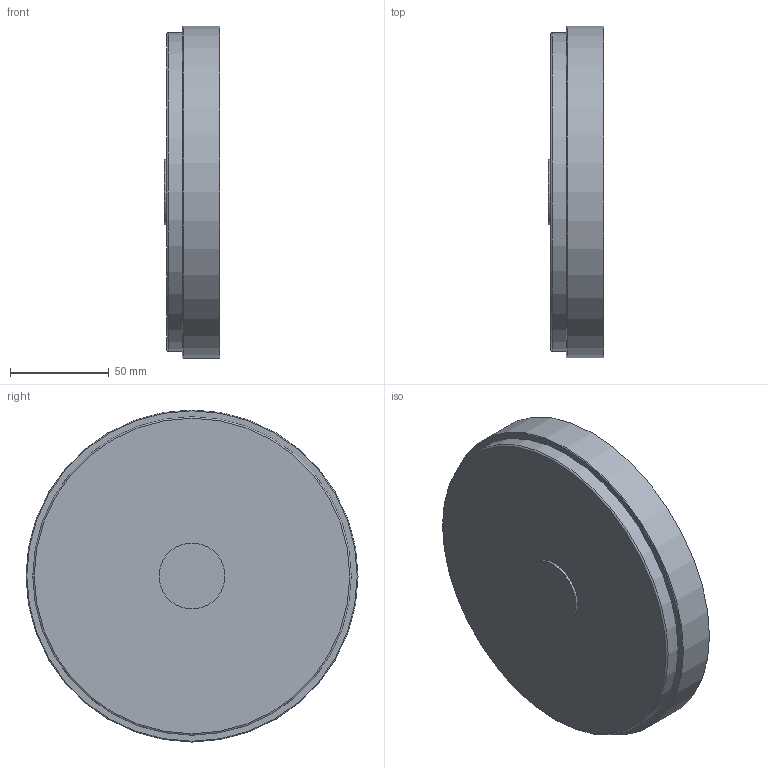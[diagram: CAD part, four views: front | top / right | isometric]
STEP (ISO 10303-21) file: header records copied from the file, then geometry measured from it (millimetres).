
FILE_DESCRIPTION(/* description */ ('VIC STRENGTHIN CAP No E496 w/Tap 1/2 inch BSPT (Concentric)','CAx-IF Rec.Pracs.---Representation and Presentation of Product Manufacturing Information (PMI)---4.0---2014-10-13'),/* implementation_level */ '2;1');
FILE_NAME(/* name */ 'C:\Users\Vjadhav\AppData\Roaming\Autodesk\ApplicationPlugins\Back Up\Victaulic_SS-StrengThin 100_Cap With Tap_No E496 (ST1)\Victaulic_SS-StrengThin 100_Cap With Tap_No E496 (ST1)_06.0x01.0 (150x25).stp',/* time_stamp */ '2020-07-07T18:47:09+05:00',/* author */ ('jheald'),/* organization */ ('Victaulic'),/* preprocessor_version */ 'ST-DEVELOPER v17.2',/* originating_system */ 'Autodesk Inventor 2019',/* authorisation */ '');
FILE_SCHEMA (('AP242_MANAGED_MODEL_BASED_3D_ENGINEERING_MIM_LF { 1 0 10303 442 1 1 4 }'));
Length unit declared in the file: inch
Products named in the file (1): E496-06.0x01.0
Bounding box: 28.19 x 168.28 x 168.28 mm (x, y, z)
Volume: 405928.1 mm3; surface area: 63089.3 mm2
Topology: 1 solids, 1 shells, 11 faces, 26 edges, 20 vertices
Faces by surface type: plane 5, cylinder 4, torus 2
Full cylindrical faces by diameter (mm): 33.401 x1, 154.051 x1, 161.417 x1, 168.275 x1
Entity records: 489 total; most frequent: DIRECTION 98, CARTESIAN_POINT 75, ORIENTED_EDGE 52, AXIS2_PLACEMENT_3D 47, EDGE_CURVE 26, CIRCLE 22, VERTEX_POINT 20, EDGE_LOOP 14
